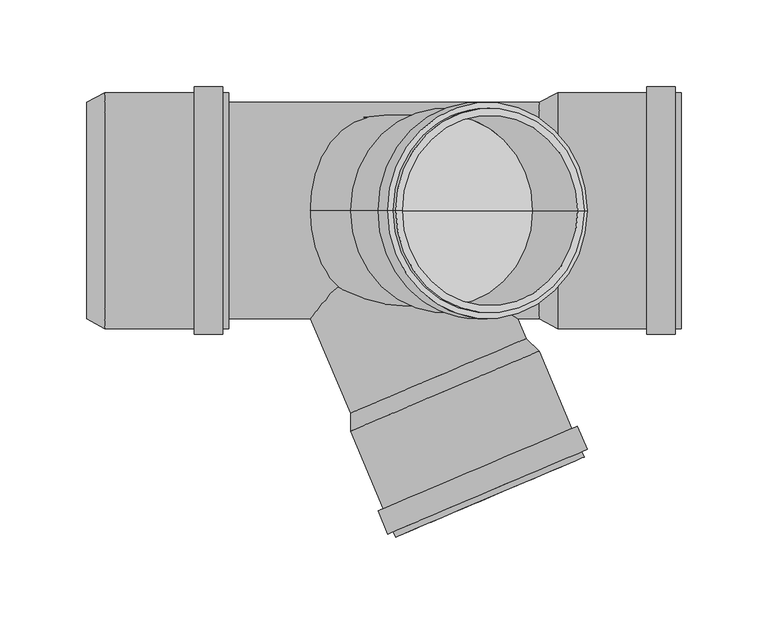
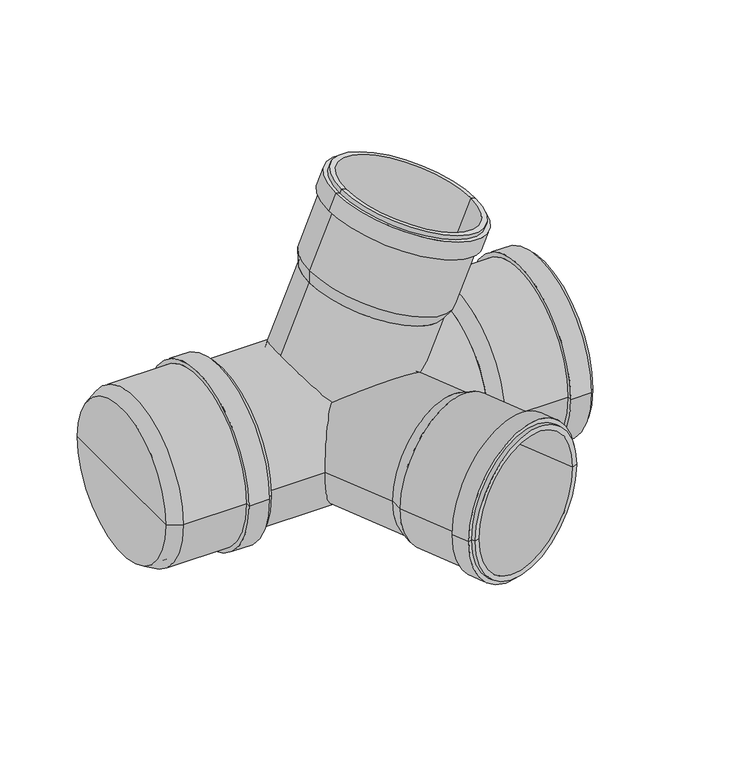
"""IFC4 building model written with IfcOpenShell, lengths in millimetres: pipe fitting geometry, pf_HTED : pf_HTED."""

from ifc_helpers import new_model, si_unit, point, frame, origin, origin_2d, place, context, project, spatial, polyline, circle_curve, trimmed, segment, composite_curve, outline, extrude, source, transform, mapped, element, save
from ifc_brep_helpers import plane_surface, cylinder_surface, revolved_surface, advanced_brep


def pipe_fitting_1fac66fd(model_context):
    return source(origin(), model_context, "Body", "SolidModel", [
        advanced_brep(
        [(91.146585, 0.0, 73.9661412), (-10.1089489, 0.0, 116.9465654), (-10.1710731, 0.0, 127.2933591), (98.6326006, 0.0, 81.1089397), (40.518818, 0.0, 95.4563533), (124.6162206, 0.0, 142.3225125), (15.812547, 0.0, 188.5069319), (19.5866168, 0.0, 186.9049342), (120.8421507, 0.0, 143.9245101), (123.2877348, 0.0, 139.192796), (14.4840611, 0.0, 185.3772154), (126.4174513, 0.0, 137.8643101), (11.3543446, 0.0, 186.7057012), (120.7518499, 0.0, 124.5169898), (5.6887432, 0.0, 173.3583808), (117.6221334, 0.0, 125.8454756), (8.8184598, 0.0, 172.029895), (94.8585307, 0.0, 82.7109373), (-6.3970032, 0.0, 125.6913615), (44.2307637, 0.0, 104.2011494)],
        [
            (0, 1, circle_curve(frame((40.518818, 0.0, 95.4563533), z_axis=(0.3907311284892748, 0.0, 0.9205048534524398), x_axis=(-0.9205048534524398, 0.0, 0.3907311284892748)), 55.0)),
            (1, 2),
            (2, 3, circle_curve(frame((44.2307637, 0.0, 104.2011494), z_axis=(-0.3907311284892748, 0.0, -0.9205048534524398), x_axis=(-0.9205048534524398, 0.0, 0.3907311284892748)), 59.1)),
            (3, 0),
            (1, 0, circle_curve(frame((40.518818, 0.0, 95.4563533), z_axis=(0.3907311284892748, 0.0, 0.9205048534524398), x_axis=(-0.9205048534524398, 0.0, 0.3907311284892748)), 55.0)),
            (3, 2, circle_curve(frame((44.2307637, 0.0, 104.2011494), z_axis=(-0.3907311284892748, 0.0, -0.9205048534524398), x_axis=(-0.9205048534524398, 0.0, 0.3907311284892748)), 59.1)),
            (4, 1),
            (0, 4),
            (5, 6, circle_curve(frame((70.2143838, 0.0, 165.4147222), z_axis=(0.3907311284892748, 0.0, 0.9205048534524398), x_axis=(-0.9205048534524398, 0.0, 0.3907311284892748)), 59.1)),
            (6, 7),
            (7, 8, circle_curve(frame((70.2143838, 0.0, 165.4147222), z_axis=(-0.3907311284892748, 0.0, -0.9205048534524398), x_axis=(-0.9205048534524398, 0.0, 0.3907311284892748)), 55.0)),
            (8, 5),
            (6, 5, circle_curve(frame((70.2143838, 0.0, 165.4147222), z_axis=(0.3907311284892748, 0.0, 0.9205048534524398), x_axis=(-0.9205048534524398, 0.0, 0.3907311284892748)), 59.1)),
            (8, 7, circle_curve(frame((70.2143838, 0.0, 165.4147222), z_axis=(-0.3907311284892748, 0.0, -0.9205048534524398), x_axis=(-0.9205048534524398, 0.0, 0.3907311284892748)), 55.0)),
            (9, 10, circle_curve(frame((68.885898, 0.0, 162.2850057), z_axis=(0.3907311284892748, 0.0, 0.9205048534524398), x_axis=(-0.9205048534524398, 0.0, 0.3907311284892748)), 59.1)),
            (10, 6),
            (5, 9),
            (10, 9, circle_curve(frame((68.885898, 0.0, 162.2850057), z_axis=(0.3907311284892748, 0.0, 0.9205048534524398), x_axis=(-0.9205048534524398, 0.0, 0.3907311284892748)), 59.1)),
            (11, 12, circle_curve(frame((68.885898, 0.0, 162.2850057), z_axis=(0.3907311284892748, 0.0, 0.9205048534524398), x_axis=(-0.9205048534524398, 0.0, 0.3907311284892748)), 62.5)),
            (12, 10),
            (9, 11),
            (12, 11, circle_curve(frame((68.885898, 0.0, 162.2850057), z_axis=(0.3907311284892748, 0.0, 0.9205048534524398), x_axis=(-0.9205048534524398, 0.0, 0.3907311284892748)), 62.5)),
            (13, 14, circle_curve(frame((63.2202966, 0.0, 148.9376853), z_axis=(0.3907311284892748, 0.0, 0.9205048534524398), x_axis=(-0.9205048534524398, 0.0, 0.3907311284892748)), 62.5)),
            (14, 12),
            (11, 13),
            (14, 13, circle_curve(frame((63.2202966, 0.0, 148.9376853), z_axis=(0.3907311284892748, 0.0, 0.9205048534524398), x_axis=(-0.9205048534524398, 0.0, 0.3907311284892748)), 62.5)),
            (15, 16, circle_curve(frame((63.2202966, 0.0, 148.9376853), z_axis=(0.3907311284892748, 0.0, 0.9205048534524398), x_axis=(-0.9205048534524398, 0.0, 0.3907311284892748)), 59.1)),
            (16, 14),
            (13, 15),
            (16, 15, circle_curve(frame((63.2202966, 0.0, 148.9376853), z_axis=(0.3907311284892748, 0.0, 0.9205048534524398), x_axis=(-0.9205048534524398, 0.0, 0.3907311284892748)), 59.1)),
            (2, 16),
            (15, 3),
            (17, 18, circle_curve(frame((44.2307637, 0.0, 104.2011494), z_axis=(0.3907311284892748, 0.0, 0.9205048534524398), x_axis=(-0.9205048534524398, 0.0, 0.3907311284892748)), 55.0)),
            (18, 19),
            (19, 17),
            (18, 17, circle_curve(frame((44.2307637, 0.0, 104.2011494), z_axis=(0.3907311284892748, 0.0, 0.9205048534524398), x_axis=(-0.9205048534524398, 0.0, 0.3907311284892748)), 55.0)),
            (7, 18),
            (17, 8),
        ],
        [
            revolved_surface(polyline([(-10.1710731, 0.0, 127.2933591), (-10.1089489, 0.0, 116.9465654)]), (40.518818, 0.0, 95.4563533), (-0.3907311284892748, 0.0, -0.9205048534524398)),
            plane_surface(frame((40.518818, 0.0, 95.4563533), z_axis=(-0.3907311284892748, 0.0, -0.9205048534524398), x_axis=(-0.9205048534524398, 0.0, 0.3907311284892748))),
            plane_surface(frame((70.2143838, 0.0, 165.4147222), z_axis=(0.3907311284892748, 0.0, 0.9205048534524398), x_axis=(-0.9205048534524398, 0.0, 0.3907311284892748))),
            cylinder_surface(frame((40.518818, 0.0, 95.4563533), z_axis=(-0.3907311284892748, 0.0, -0.9205048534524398), x_axis=(-0.9205048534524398, 0.0, 0.3907311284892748)), 59.1),
            plane_surface(frame((68.885898, 0.0, 162.2850057), z_axis=(0.3907311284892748, 0.0, 0.9205048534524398), x_axis=(-0.9205048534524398, 0.0, 0.3907311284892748))),
            cylinder_surface(frame((40.518818, 0.0, 95.4563533), z_axis=(-0.3907311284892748, 0.0, -0.9205048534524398), x_axis=(-0.9205048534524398, 0.0, 0.3907311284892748)), 62.5),
            plane_surface(frame((63.2202966, 0.0, 148.9376853), z_axis=(-0.3907311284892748, 0.0, -0.9205048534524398), x_axis=(-0.9205048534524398, 0.0, 0.3907311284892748))),
            plane_surface(frame((44.2307637, 0.0, 104.2011494), z_axis=(0.3907311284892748, 0.0, 0.9205048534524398), x_axis=(-0.9205048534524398, 0.0, 0.3907311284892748))),
            revolved_surface(polyline([(-6.397003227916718, 0.0, 125.69136145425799), (19.58661684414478, 0.0, 186.9049342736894)]), (40.518818, 0.0, 95.4563533), (-0.3907311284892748, 0.0, -0.9205048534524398)),
        ],
        [
            (0, [[1, 2, 3, 4]]),
            (0, [[5, -4, 6, -2]]),
            (1, [[7, -1, 8]]),
            (1, [[-8, -5, -7]]),
            (2, [[9, 10, 11, 12]]),
            (2, [[13, -12, 14, -10]]),
            (3, [[15, 16, -9, 17]]),
            (3, [[18, -17, -13, -16]]),
            (4, [[19, 20, -15, 21]]),
            (4, [[22, -21, -18, -20]]),
            (5, [[23, 24, -19, 25]]),
            (5, [[26, -25, -22, -24]]),
            (6, [[27, 28, -23, 29]]),
            (6, [[30, -29, -26, -28]]),
            (3, [[-3, 31, -27, 32]]),
            (3, [[-6, -32, -30, -31]]),
            (7, [[33, 34, 35]]),
            (7, [[36, -35, -34]]),
            (8, [[-11, 37, -33, 38]]),
            (8, [[-14, -38, -36, -37]]),
        ],
    ),
        advanced_brep(
        [(-10.1089489, -116.9465654, 0.0), (91.146585, -73.9661412, 0.0), (98.6326006, -81.1089397, 0.0), (-10.1710731, -127.2933591, 0.0), (40.518818, -95.4563533, 0.0), (15.812547, -188.5069319, 0.0), (124.6162206, -142.3225125, 0.0), (120.8421507, -143.9245101, 0.0), (19.5866168, -186.9049342, 0.0), (14.4840611, -185.3772154, 0.0), (123.2877348, -139.192796, 0.0), (11.3543446, -186.7057012, 0.0), (126.4174513, -137.8643101, 0.0), (5.6887432, -173.3583808, 0.0), (120.7518499, -124.5169898, 0.0), (8.8184598, -172.029895, 0.0), (117.6221334, -125.8454756, 0.0), (-6.3970032, -125.6913615, 0.0), (94.8585307, -82.7109373, 0.0), (44.2307637, -104.2011494, 0.0)],
        [
            (0, 1, circle_curve(frame((40.518818, -95.4563533, 0.0), z_axis=(0.3907311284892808, -0.9205048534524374, 0.0), x_axis=(0.9205048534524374, 0.3907311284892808, 0.0)), 55.0)),
            (1, 2),
            (2, 3, circle_curve(frame((44.2307637, -104.2011494, 0.0), z_axis=(-0.3907311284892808, 0.9205048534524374, 0.0), x_axis=(0.9205048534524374, 0.3907311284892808, 0.0)), 59.1)),
            (3, 0),
            (1, 0, circle_curve(frame((40.518818, -95.4563533, 0.0), z_axis=(0.3907311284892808, -0.9205048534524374, 0.0), x_axis=(0.9205048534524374, 0.3907311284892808, 0.0)), 55.0)),
            (3, 2, circle_curve(frame((44.2307637, -104.2011494, 0.0), z_axis=(-0.3907311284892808, 0.9205048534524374, 0.0), x_axis=(0.9205048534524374, 0.3907311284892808, 0.0)), 59.1)),
            (4, 1),
            (0, 4),
            (5, 6, circle_curve(frame((70.2143838, -165.4147222, 0.0), z_axis=(0.3907311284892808, -0.9205048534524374, 0.0), x_axis=(0.9205048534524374, 0.3907311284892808, 0.0)), 59.1)),
            (6, 7),
            (7, 8, circle_curve(frame((70.2143838, -165.4147222, 0.0), z_axis=(-0.3907311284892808, 0.9205048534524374, 0.0), x_axis=(0.9205048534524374, 0.3907311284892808, 0.0)), 55.0)),
            (8, 5),
            (6, 5, circle_curve(frame((70.2143838, -165.4147222, 0.0), z_axis=(0.3907311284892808, -0.9205048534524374, 0.0), x_axis=(0.9205048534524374, 0.3907311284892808, 0.0)), 59.1)),
            (8, 7, circle_curve(frame((70.2143838, -165.4147222, 0.0), z_axis=(-0.3907311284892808, 0.9205048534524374, 0.0), x_axis=(0.9205048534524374, 0.3907311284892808, 0.0)), 55.0)),
            (9, 10, circle_curve(frame((68.885898, -162.2850057, 0.0), z_axis=(0.3907311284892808, -0.9205048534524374, 0.0), x_axis=(0.9205048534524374, 0.3907311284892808, 0.0)), 59.1)),
            (10, 6),
            (5, 9),
            (10, 9, circle_curve(frame((68.885898, -162.2850057, 0.0), z_axis=(0.3907311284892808, -0.9205048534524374, 0.0), x_axis=(0.9205048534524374, 0.3907311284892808, 0.0)), 59.1)),
            (11, 12, circle_curve(frame((68.885898, -162.2850057, 0.0), z_axis=(0.3907311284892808, -0.9205048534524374, 0.0), x_axis=(0.9205048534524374, 0.3907311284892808, 0.0)), 62.5)),
            (12, 10),
            (9, 11),
            (12, 11, circle_curve(frame((68.885898, -162.2850057, 0.0), z_axis=(0.3907311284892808, -0.9205048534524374, 0.0), x_axis=(0.9205048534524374, 0.3907311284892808, 0.0)), 62.5)),
            (13, 14, circle_curve(frame((63.2202966, -148.9376853, 0.0), z_axis=(0.3907311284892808, -0.9205048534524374, 0.0), x_axis=(0.9205048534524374, 0.3907311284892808, 0.0)), 62.5)),
            (14, 12),
            (11, 13),
            (14, 13, circle_curve(frame((63.2202966, -148.9376853, 0.0), z_axis=(0.3907311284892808, -0.9205048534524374, 0.0), x_axis=(0.9205048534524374, 0.3907311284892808, 0.0)), 62.5)),
            (15, 16, circle_curve(frame((63.2202966, -148.9376853, 0.0), z_axis=(0.3907311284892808, -0.9205048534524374, 0.0), x_axis=(0.9205048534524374, 0.3907311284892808, 0.0)), 59.1)),
            (16, 14),
            (13, 15),
            (16, 15, circle_curve(frame((63.2202966, -148.9376853, 0.0), z_axis=(0.3907311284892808, -0.9205048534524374, 0.0), x_axis=(0.9205048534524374, 0.3907311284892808, 0.0)), 59.1)),
            (2, 16),
            (15, 3),
            (17, 18, circle_curve(frame((44.2307637, -104.2011494, 0.0), z_axis=(0.3907311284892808, -0.9205048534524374, 0.0), x_axis=(0.9205048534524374, 0.3907311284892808, 0.0)), 55.0)),
            (18, 19),
            (19, 17),
            (18, 17, circle_curve(frame((44.2307637, -104.2011494, 0.0), z_axis=(0.3907311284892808, -0.9205048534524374, 0.0), x_axis=(0.9205048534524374, 0.3907311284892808, 0.0)), 55.0)),
            (7, 18),
            (17, 8),
        ],
        [
            revolved_surface(polyline([(98.6326006, -81.1089397, 0.0), (91.146585, -73.9661412, 0.0)]), (40.518818, -95.4563533, 0.0), (-0.3907311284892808, 0.9205048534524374, 0.0)),
            plane_surface(frame((40.518818, -95.4563533, 0.0), z_axis=(-0.3907311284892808, 0.9205048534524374, 0.0), x_axis=(0.9205048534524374, 0.3907311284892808, 0.0))),
            plane_surface(frame((70.2143838, -165.4147222, 0.0), z_axis=(0.3907311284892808, -0.9205048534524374, 0.0), x_axis=(0.9205048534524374, 0.3907311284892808, 0.0))),
            cylinder_surface(frame((40.518818, -95.4563533, 0.0), z_axis=(-0.3907311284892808, 0.9205048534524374, 0.0), x_axis=(0.9205048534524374, 0.3907311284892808, 0.0)), 59.1),
            plane_surface(frame((68.885898, -162.2850057, 0.0), z_axis=(0.3907311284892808, -0.9205048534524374, 0.0), x_axis=(0.9205048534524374, 0.3907311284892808, 0.0))),
            cylinder_surface(frame((40.518818, -95.4563533, 0.0), z_axis=(-0.3907311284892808, 0.9205048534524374, 0.0), x_axis=(0.9205048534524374, 0.3907311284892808, 0.0)), 62.5),
            plane_surface(frame((63.2202966, -148.9376853, 0.0), z_axis=(-0.3907311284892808, 0.9205048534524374, 0.0), x_axis=(0.9205048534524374, 0.3907311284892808, 0.0))),
            plane_surface(frame((44.2307637, -104.2011494, 0.0), z_axis=(0.3907311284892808, -0.9205048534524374, 0.0), x_axis=(0.9205048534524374, 0.3907311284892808, 0.0))),
            revolved_surface(polyline([(94.85853065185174, -82.71093732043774, 0.0), (120.84215072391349, -143.9245101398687, 0.0)]), (40.518818, -95.4563533, 0.0), (-0.3907311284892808, 0.9205048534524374, 0.0)),
        ],
        [
            (0, [[1, 2, 3, 4]]),
            (0, [[5, -4, 6, -2]]),
            (1, [[7, -1, 8]]),
            (1, [[-8, -5, -7]]),
            (2, [[9, 10, 11, 12]]),
            (2, [[13, -12, 14, -10]]),
            (3, [[15, 16, -9, 17]]),
            (3, [[18, -17, -13, -16]]),
            (4, [[19, 20, -15, 21]]),
            (4, [[22, -21, -18, -20]]),
            (5, [[23, 24, -19, 25]]),
            (5, [[26, -25, -22, -24]]),
            (6, [[27, 28, -23, 29]]),
            (6, [[30, -29, -26, -28]]),
            (3, [[-3, 31, -27, 32]]),
            (3, [[-6, -32, -30, -31]]),
            (7, [[33, 34, 35]]),
            (7, [[36, -35, -34]]),
            (8, [[-11, 37, -33, 38]]),
            (8, [[-14, -38, -36, -37]]),
        ],
    ),
        advanced_brep(
        [(98.8, -62.5, 0.0), (98.8, 62.5, 0.0), (109.3, 68.1, 0.0), (109.3, -68.1, 0.0), (98.8, 0.0, 0.0), (180.8, -68.1, 0.0), (180.8, 68.1, 0.0), (180.8, 62.5, 0.0), (180.8, -62.5, 0.0), (177.4, -68.1, 0.0), (177.4, 68.1, 0.0), (177.4, -71.5, 0.0), (177.4, 71.5, 0.0), (160.8, -71.5, 0.0), (160.8, 71.5, 0.0), (160.8, -68.1, 0.0), (160.8, 68.1, 0.0), (109.3, -62.5, 0.0), (109.3, 62.5, 0.0), (109.3, 0.0, 0.0)],
        [
            (0, 1, circle_curve(frame((98.8, 0.0, 0.0), z_axis=(1.0, 0.0, 0.0), x_axis=(0.0, 1.0, 0.0)), 62.5)),
            (1, 2),
            (2, 3, circle_curve(frame((109.3, 0.0, 0.0), z_axis=(-1.0, 0.0, 0.0), x_axis=(0.0, 1.0, 0.0)), 68.1)),
            (3, 0),
            (1, 0, circle_curve(frame((98.8, 0.0, 0.0), z_axis=(1.0, 0.0, 0.0), x_axis=(0.0, 1.0, 0.0)), 62.5)),
            (3, 2, circle_curve(frame((109.3, 0.0, 0.0), z_axis=(-1.0, 0.0, 0.0), x_axis=(0.0, 1.0, 0.0)), 68.1)),
            (4, 1),
            (0, 4),
            (5, 6, circle_curve(frame((180.8, 0.0, 0.0), z_axis=(1.0, 0.0, 0.0), x_axis=(0.0, 1.0, 0.0)), 68.1)),
            (6, 7),
            (7, 8, circle_curve(frame((180.8, 0.0, 0.0), z_axis=(-1.0, 0.0, 0.0), x_axis=(0.0, 1.0, 0.0)), 62.5)),
            (8, 5),
            (6, 5, circle_curve(frame((180.8, 0.0, 0.0), z_axis=(1.0, 0.0, 0.0), x_axis=(0.0, 1.0, 0.0)), 68.1)),
            (8, 7, circle_curve(frame((180.8, 0.0, 0.0), z_axis=(-1.0, 0.0, 0.0), x_axis=(0.0, 1.0, 0.0)), 62.5)),
            (9, 10, circle_curve(frame((177.4, 0.0, 0.0), z_axis=(1.0, 0.0, 0.0), x_axis=(0.0, 1.0, 0.0)), 68.1)),
            (10, 6),
            (5, 9),
            (10, 9, circle_curve(frame((177.4, 0.0, 0.0), z_axis=(1.0, 0.0, 0.0), x_axis=(0.0, 1.0, 0.0)), 68.1)),
            (11, 12, circle_curve(frame((177.4, 0.0, 0.0), z_axis=(1.0, 0.0, 0.0), x_axis=(0.0, 1.0, 0.0)), 71.5)),
            (12, 10),
            (9, 11),
            (12, 11, circle_curve(frame((177.4, 0.0, 0.0), z_axis=(1.0, 0.0, 0.0), x_axis=(0.0, 1.0, 0.0)), 71.5)),
            (13, 14, circle_curve(frame((160.8, 0.0, 0.0), z_axis=(1.0, 0.0, 0.0), x_axis=(0.0, 1.0, 0.0)), 71.5)),
            (14, 12),
            (11, 13),
            (14, 13, circle_curve(frame((160.8, 0.0, 0.0), z_axis=(1.0, 0.0, 0.0), x_axis=(0.0, 1.0, 0.0)), 71.5)),
            (15, 16, circle_curve(frame((160.8, 0.0, 0.0), z_axis=(1.0, 0.0, 0.0), x_axis=(0.0, 1.0, 0.0)), 68.1)),
            (16, 14),
            (13, 15),
            (16, 15, circle_curve(frame((160.8, 0.0, 0.0), z_axis=(1.0, 0.0, 0.0), x_axis=(0.0, 1.0, 0.0)), 68.1)),
            (2, 16),
            (15, 3),
            (17, 18, circle_curve(frame((109.3, 0.0, 0.0), z_axis=(1.0, 0.0, 0.0), x_axis=(0.0, 1.0, 0.0)), 62.5)),
            (18, 19),
            (19, 17),
            (18, 17, circle_curve(frame((109.3, 0.0, 0.0), z_axis=(1.0, 0.0, 0.0), x_axis=(0.0, 1.0, 0.0)), 62.5)),
            (7, 18),
            (17, 8),
        ],
        [
            revolved_surface(polyline([(109.3, 68.1, 0.0), (98.8, 62.5, 0.0)]), (98.8, 0.0, 0.0), (-1.0, 0.0, 0.0)),
            plane_surface(frame((98.8, 0.0, 0.0), z_axis=(-1.0, 0.0, 0.0), x_axis=(0.0, 1.0, 0.0))),
            plane_surface(frame((180.8, 0.0, 0.0), z_axis=(1.0, 0.0, 0.0), x_axis=(0.0, 1.0, 0.0))),
            cylinder_surface(frame((98.8, 0.0, 0.0), z_axis=(-1.0, 0.0, 0.0), x_axis=(0.0, 1.0, 0.0)), 68.1),
            plane_surface(frame((177.4, 0.0, 0.0), z_axis=(1.0, 0.0, 0.0), x_axis=(0.0, 1.0, 0.0))),
            cylinder_surface(frame((98.8, 0.0, 0.0), z_axis=(-1.0, 0.0, 0.0), x_axis=(0.0, 1.0, 0.0)), 71.5),
            plane_surface(frame((160.8, 0.0, 0.0), z_axis=(-1.0, 0.0, 0.0), x_axis=(0.0, 1.0, 0.0))),
            plane_surface(frame((109.3, 0.0, 0.0), z_axis=(1.0, 0.0, 0.0), x_axis=(0.0, 1.0, 0.0))),
            revolved_surface(polyline([(109.3, 62.5, 0.0), (180.8, 62.5, 0.0)]), (98.8, 0.0, 0.0), (-1.0, 0.0, 0.0)),
        ],
        [
            (0, [[1, 2, 3, 4]]),
            (0, [[5, -4, 6, -2]]),
            (1, [[7, -1, 8]]),
            (1, [[-8, -5, -7]]),
            (2, [[9, 10, 11, 12]]),
            (2, [[13, -12, 14, -10]]),
            (3, [[15, 16, -9, 17]]),
            (3, [[18, -17, -13, -16]]),
            (4, [[19, 20, -15, 21]]),
            (4, [[22, -21, -18, -20]]),
            (5, [[23, 24, -19, 25]]),
            (5, [[26, -25, -22, -24]]),
            (6, [[27, 28, -23, 29]]),
            (6, [[30, -29, -26, -28]]),
            (3, [[-3, 31, -27, 32]]),
            (3, [[-6, -32, -30, -31]]),
            (7, [[33, 34, 35]]),
            (7, [[36, -35, -34]]),
            (8, [[-11, 37, -33, 38]]),
            (8, [[-14, -38, -36, -37]]),
        ],
    ),
        advanced_brep(
        [(-162.5, -62.5, 0.0), (-162.5, 62.5, 0.0), (-152.0, 68.1, 0.0), (-152.0, -68.1, 0.0), (-162.5, 0.0, 0.0), (-80.5, -68.1, 0.0), (-80.5, 68.1, 0.0), (-80.5, 62.5, 0.0), (-80.5, -62.5, 0.0), (-83.9, -68.1, 0.0), (-83.9, 68.1, 0.0), (-83.9, -71.5, 0.0), (-83.9, 71.5, 0.0), (-100.5, -71.5, 0.0), (-100.5, 71.5, 0.0), (-100.5, -68.1, 0.0), (-100.5, 68.1, 0.0), (-152.0, -62.5, 0.0), (-152.0, 62.5, 0.0), (-152.0, 0.0, 0.0)],
        [
            (0, 1, circle_curve(frame((-162.5, 0.0, 0.0), z_axis=(1.0, 0.0, 0.0), x_axis=(0.0, 1.0, 0.0)), 62.5)),
            (1, 2),
            (2, 3, circle_curve(frame((-152.0, 0.0, 0.0), z_axis=(-1.0, 0.0, 0.0), x_axis=(0.0, 1.0, 0.0)), 68.1)),
            (3, 0),
            (1, 0, circle_curve(frame((-162.5, 0.0, 0.0), z_axis=(1.0, 0.0, 0.0), x_axis=(0.0, 1.0, 0.0)), 62.5)),
            (3, 2, circle_curve(frame((-152.0, 0.0, 0.0), z_axis=(-1.0, 0.0, 0.0), x_axis=(0.0, 1.0, 0.0)), 68.1)),
            (4, 1),
            (0, 4),
            (5, 6, circle_curve(frame((-80.5, 0.0, 0.0), z_axis=(1.0, 0.0, 0.0), x_axis=(0.0, 1.0, 0.0)), 68.1)),
            (6, 7),
            (7, 8, circle_curve(frame((-80.5, 0.0, 0.0), z_axis=(-1.0, 0.0, 0.0), x_axis=(0.0, 1.0, 0.0)), 62.5)),
            (8, 5),
            (6, 5, circle_curve(frame((-80.5, 0.0, 0.0), z_axis=(1.0, 0.0, 0.0), x_axis=(0.0, 1.0, 0.0)), 68.1)),
            (8, 7, circle_curve(frame((-80.5, 0.0, 0.0), z_axis=(-1.0, 0.0, 0.0), x_axis=(0.0, 1.0, 0.0)), 62.5)),
            (9, 10, circle_curve(frame((-83.9, 0.0, 0.0), z_axis=(1.0, 0.0, 0.0), x_axis=(0.0, 1.0, 0.0)), 68.1)),
            (10, 6),
            (5, 9),
            (10, 9, circle_curve(frame((-83.9, 0.0, 0.0), z_axis=(1.0, 0.0, 0.0), x_axis=(0.0, 1.0, 0.0)), 68.1)),
            (11, 12, circle_curve(frame((-83.9, 0.0, 0.0), z_axis=(1.0, 0.0, 0.0), x_axis=(0.0, 1.0, 0.0)), 71.5)),
            (12, 10),
            (9, 11),
            (12, 11, circle_curve(frame((-83.9, 0.0, 0.0), z_axis=(1.0, 0.0, 0.0), x_axis=(0.0, 1.0, 0.0)), 71.5)),
            (13, 14, circle_curve(frame((-100.5, 0.0, 0.0), z_axis=(1.0, 0.0, 0.0), x_axis=(0.0, 1.0, 0.0)), 71.5)),
            (14, 12),
            (11, 13),
            (14, 13, circle_curve(frame((-100.5, 0.0, 0.0), z_axis=(1.0, 0.0, 0.0), x_axis=(0.0, 1.0, 0.0)), 71.5)),
            (15, 16, circle_curve(frame((-100.5, 0.0, 0.0), z_axis=(1.0, 0.0, 0.0), x_axis=(0.0, 1.0, 0.0)), 68.1)),
            (16, 14),
            (13, 15),
            (16, 15, circle_curve(frame((-100.5, 0.0, 0.0), z_axis=(1.0, 0.0, 0.0), x_axis=(0.0, 1.0, 0.0)), 68.1)),
            (2, 16),
            (15, 3),
            (17, 18, circle_curve(frame((-152.0, 0.0, 0.0), z_axis=(1.0, 0.0, 0.0), x_axis=(0.0, 1.0, 0.0)), 62.5)),
            (18, 19),
            (19, 17),
            (18, 17, circle_curve(frame((-152.0, 0.0, 0.0), z_axis=(1.0, 0.0, 0.0), x_axis=(0.0, 1.0, 0.0)), 62.5)),
            (7, 18),
            (17, 8),
        ],
        [
            revolved_surface(polyline([(-152.0, 68.1, 0.0), (-162.5, 62.5, 0.0)]), (-162.5, 0.0, 0.0), (-1.0, 0.0, 0.0)),
            plane_surface(frame((-162.5, 0.0, 0.0), z_axis=(-1.0, 0.0, 0.0), x_axis=(0.0, 1.0, 0.0))),
            plane_surface(frame((-80.5, 0.0, 0.0), z_axis=(1.0, 0.0, 0.0), x_axis=(0.0, 1.0, 0.0))),
            cylinder_surface(frame((-162.5, 0.0, 0.0), z_axis=(-1.0, 0.0, 0.0), x_axis=(0.0, 1.0, 0.0)), 68.1),
            plane_surface(frame((-83.9, 0.0, 0.0), z_axis=(1.0, 0.0, 0.0), x_axis=(0.0, 1.0, 0.0))),
            cylinder_surface(frame((-162.5, 0.0, 0.0), z_axis=(-1.0, 0.0, 0.0), x_axis=(0.0, 1.0, 0.0)), 71.5),
            plane_surface(frame((-100.5, 0.0, 0.0), z_axis=(-1.0, 0.0, 0.0), x_axis=(0.0, 1.0, 0.0))),
            plane_surface(frame((-152.0, 0.0, 0.0), z_axis=(1.0, 0.0, 0.0), x_axis=(0.0, 1.0, 0.0))),
            revolved_surface(polyline([(-152.0, 62.5, 0.0), (-80.5, 62.5, 0.0)]), (-162.5, 0.0, 0.0), (-1.0, 0.0, 0.0)),
        ],
        [
            (0, [[1, 2, 3, 4]]),
            (0, [[5, -4, 6, -2]]),
            (1, [[7, -1, 8]]),
            (1, [[-8, -5, -7]]),
            (2, [[9, 10, 11, 12]]),
            (2, [[13, -12, 14, -10]]),
            (3, [[15, 16, -9, 17]]),
            (3, [[18, -17, -13, -16]]),
            (4, [[19, 20, -15, 21]]),
            (4, [[22, -21, -18, -20]]),
            (5, [[23, 24, -19, 25]]),
            (5, [[26, -25, -22, -24]]),
            (6, [[27, 28, -23, 29]]),
            (6, [[30, -29, -26, -28]]),
            (3, [[-3, 31, -27, 32]]),
            (3, [[-6, -32, -30, -31]]),
            (7, [[33, 34, 35]]),
            (7, [[36, -35, -34]]),
            (8, [[-11, 37, -33, 38]]),
            (8, [[-14, -38, -36, -37]]),
        ],
    ),
        extrude(outline(composite_curve([segment(trimmed(circle_curve(origin_2d(), 55.0), [point((0.0, 55.0))], [point((0.0, -55.0))], False, "CARTESIAN"), True, "CONTINUOUS"), segment(trimmed(circle_curve(origin_2d(), 55.0), [point((0.0, -55.0))], [point((0.0, 55.0))], False, "CARTESIAN"), True, "CONTINUOUS")], self_intersect=False)), frame((0.0, 0.0, 0.0), z_axis=(0.3907311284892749, 0.0, 0.9205048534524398), x_axis=(0.0, -1.0, 0.0)), (0.0, 0.0, 1.0), 103.7),
        extrude(outline(composite_curve([segment(trimmed(circle_curve(origin_2d(), 55.0), [point((0.0, -55.0))], [point((0.0, 55.0000001))], False, "CARTESIAN"), True, "CONTINUOUS"), segment(trimmed(circle_curve(origin_2d(), 55.0), [point((0.0, 55.0000001))], [point((0.0, -55.0))], False, "CARTESIAN"), True, "CONTINUOUS")], self_intersect=False)), frame((40.518818, -95.4563533, 0.0), z_axis=(-0.39073112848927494, 0.9205048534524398, 0.0), x_axis=(0.0, 0.0, 1.0)), (0.0, 0.0, 1.0), 103.7),
        extrude(outline(composite_curve([segment(trimmed(circle_curve(origin_2d(), 62.5), [point((-62.5, 0.0))], [point((62.5, 0.0))], False, "CARTESIAN"), True, "CONTINUOUS"), segment(trimmed(circle_curve(origin_2d(), 62.5), [point((62.5, 0.0))], [point((-62.5, 0.0))], False, "CARTESIAN"), True, "CONTINUOUS")], self_intersect=False)), frame((-152.0, 0.0, 0.0), z_axis=(1.0, 0.0, 0.0), x_axis=(0.0, 1.0, 0.0)), (0.0, 0.0, 1.0), 250.8),
    ])


if __name__ == "__main__":
    model = new_model("IFC4")
    model_context = context("Model", 3, world=origin())
    ifc_project = project(units=[si_unit("LENGTHUNIT", "METRE", prefix="MILLI")], contexts=[model_context])
    site = spatial("IfcSite", under=ifc_project)
    building = spatial("IfcBuilding", under=site)
    placement = place(None, origin())
    pipe_fitting_shape = pipe_fitting_1fac66fd(model_context)
    element("IfcPipeFitting", 1, ObjectType="pf_HTED : pf_HTED", at=placement, inside=building, context=model_context, shape_type="MappedRepresentation", body=[
        mapped(pipe_fitting_shape, transform((0.0, 0.0, 0.0), x_axis=(1.0, 0.0, 0.0), y_axis=(0.0, 1.0, 0.0), z_axis=(0.0, 0.0, 1.0))),
    ])
    save(model, "model.ifc")
